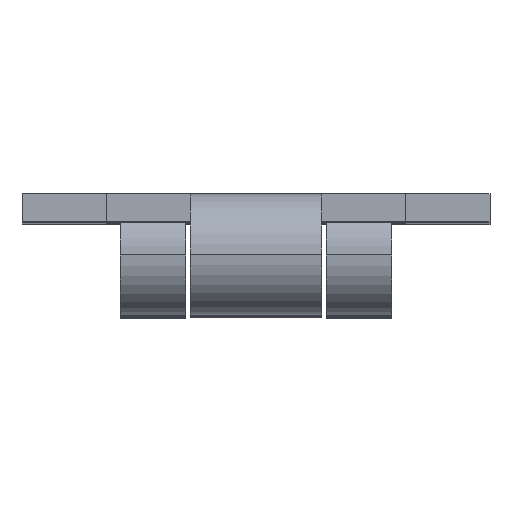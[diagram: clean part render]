
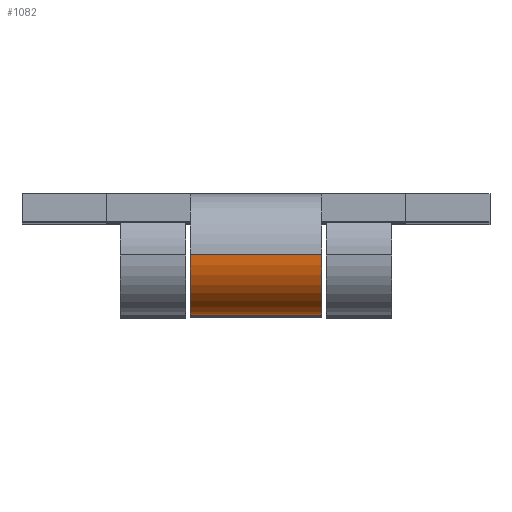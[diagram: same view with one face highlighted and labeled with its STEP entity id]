
A CAD part, top view. The second image highlights one B-rep face of the part: STEP entity #1082.
In plain terms, the highlighted cylindrical face has radius 6.5 mm (diameter 13 mm), a partial arc.
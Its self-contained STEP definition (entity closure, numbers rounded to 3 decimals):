
#12 = CARTESIAN_POINT ( 'NONE',  ( 7., -3.5, 177.95 ) ) ;
#38 = EDGE_CURVE ( 'NONE', #4414, #1980, #3141, .T. ) ;
#72 = ORIENTED_EDGE ( 'NONE', *, *, #3531, .F. ) ;
#83 = ORIENTED_EDGE ( 'NONE', *, *, #4168, .T. ) ;
#124 = VERTEX_POINT ( 'NONE', #1694 ) ;
#182 = ORIENTED_EDGE ( 'NONE', *, *, #38, .F. ) ;
#347 = EDGE_CURVE ( 'NONE', #3309, #4414, #678, .T. ) ;
#525 = CIRCLE ( 'NONE', #3914, 6.5 ) ;
#566 = DIRECTION ( 'NONE',  ( 1., 0., 0. ) ) ;
#609 = CARTESIAN_POINT ( 'NONE',  ( -7., -3.5, 171.45 ) ) ;
#641 = DIRECTION ( 'NONE',  ( 0., 0., -1. ) ) ;
#678 = LINE ( 'NONE', #4584, #4710 ) ;
#922 = FACE_OUTER_BOUND ( 'NONE', #4696, .T. ) ;
#1082 = ADVANCED_FACE ( 'NONE', ( #922 ), #4823, .T. ) ;
#1694 = CARTESIAN_POINT ( 'NONE',  ( -7., -3.5, 164.95 ) ) ;
#1980 = VERTEX_POINT ( 'NONE', #5369 ) ;
#2099 = CARTESIAN_POINT ( 'NONE',  ( 7., -3.5, 171.45 ) ) ;
#2740 = LINE ( 'NONE', #4494, #3732 ) ;
#2833 = DIRECTION ( 'NONE',  ( 1., 0., 0. ) ) ;
#2946 = DIRECTION ( 'NONE',  ( 1., 0., 0. ) ) ;
#3061 = AXIS2_PLACEMENT_3D ( 'NONE', #3593, #4512, #3995 ) ;
#3141 = CIRCLE ( 'NONE', #5327, 6.5 ) ;
#3309 = VERTEX_POINT ( 'NONE', #5597 ) ;
#3531 = EDGE_CURVE ( 'NONE', #124, #3309, #525, .T. ) ;
#3593 = CARTESIAN_POINT ( 'NONE',  ( -43.385, -3.5, 171.45 ) ) ;
#3732 = VECTOR ( 'NONE', #566, 1000. ) ;
#3914 = AXIS2_PLACEMENT_3D ( 'NONE', #609, #4937, #641 ) ;
#3995 = DIRECTION ( 'NONE',  ( 0., 0., -1. ) ) ;
#4168 = EDGE_CURVE ( 'NONE', #124, #1980, #2740, .T. ) ;
#4414 = VERTEX_POINT ( 'NONE', #12 ) ;
#4494 = CARTESIAN_POINT ( 'NONE',  ( -43.385, -3.5, 164.95 ) ) ;
#4512 = DIRECTION ( 'NONE',  ( 1., 0., 0. ) ) ;
#4584 = CARTESIAN_POINT ( 'NONE',  ( -43.385, -3.5, 177.95 ) ) ;
#4696 = EDGE_LOOP ( 'NONE', ( #5444, #72, #83, #182 ) ) ;
#4710 = VECTOR ( 'NONE', #2946, 1000. ) ;
#4823 = CYLINDRICAL_SURFACE ( 'NONE', #3061, 6.5 ) ;
#4937 = DIRECTION ( 'NONE',  ( -1., 0., 0. ) ) ;
#5122 = DIRECTION ( 'NONE',  ( 0., 0., 1. ) ) ;
#5327 = AXIS2_PLACEMENT_3D ( 'NONE', #2099, #2833, #5122 ) ;
#5369 = CARTESIAN_POINT ( 'NONE',  ( 7., -3.5, 164.95 ) ) ;
#5444 = ORIENTED_EDGE ( 'NONE', *, *, #347, .F. ) ;
#5597 = CARTESIAN_POINT ( 'NONE',  ( -7., -3.5, 177.95 ) ) ;
